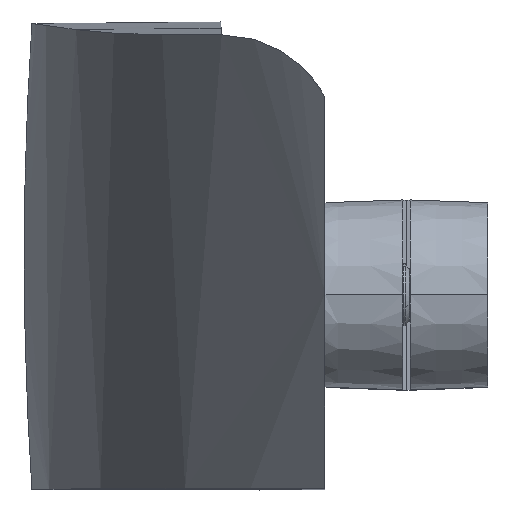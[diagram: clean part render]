
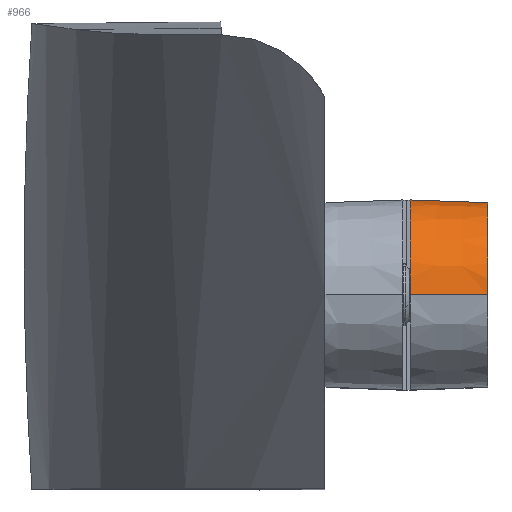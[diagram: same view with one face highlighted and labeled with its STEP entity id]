
A CAD part, top view. The second image highlights one B-rep face of the part: STEP entity #966.
In plain terms, the highlighted conical face has half-angle 2 degrees and reference radius 12.25 mm.
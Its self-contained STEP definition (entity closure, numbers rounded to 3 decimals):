
#49 = AXIS2_PLACEMENT_3D ( 'NONE', #18121, #2362, #4430 ) ;
#966 = ADVANCED_FACE ( 'NONE', ( #5024 ), #22401, .T. ) ;
#1848 = CARTESIAN_POINT ( 'NONE',  ( 11., 0., 27.5 ) ) ;
#2141 = CARTESIAN_POINT ( 'NONE',  ( 21., 11.901, 27.5 ) ) ;
#2252 = CIRCLE ( 'NONE', #12894, 12.25 ) ;
#2362 = DIRECTION ( 'NONE',  ( 1., 0., 0. ) ) ;
#2521 = EDGE_LOOP ( 'NONE', ( #10639, #13095, #11931, #19313 ) ) ;
#2792 = EDGE_CURVE ( 'NONE', #5779, #7209, #2252, .T. ) ;
#2928 = CARTESIAN_POINT ( 'NONE',  ( 11., 12.25, 27.5 ) ) ;
#3122 = DIRECTION ( 'NONE',  ( -1., 0., 0. ) ) ;
#3282 = EDGE_CURVE ( 'NONE', #5779, #16072, #8243, .T. ) ;
#4430 = DIRECTION ( 'NONE',  ( 0., 0., 1. ) ) ;
#5024 = FACE_OUTER_BOUND ( 'NONE', #2521, .T. ) ;
#5257 = DIRECTION ( 'NONE',  ( -1., 0., 0. ) ) ;
#5779 = VERTEX_POINT ( 'NONE', #15570 ) ;
#6507 = DIRECTION ( 'NONE',  ( 0.999, 0., -0.035 ) ) ;
#7209 = VERTEX_POINT ( 'NONE', #12499 ) ;
#8243 = LINE ( 'NONE', #22264, #14402 ) ;
#10545 = CARTESIAN_POINT ( 'NONE',  ( 11., 0., 27.5 ) ) ;
#10639 = ORIENTED_EDGE ( 'NONE', *, *, #2792, .F. ) ;
#11931 = ORIENTED_EDGE ( 'NONE', *, *, #22104, .F. ) ;
#11974 = DIRECTION ( 'NONE',  ( 0., 0., 1. ) ) ;
#12464 = AXIS2_PLACEMENT_3D ( 'NONE', #10545, #5257, #15948 ) ;
#12499 = CARTESIAN_POINT ( 'NONE',  ( 11., 12.25, 27.5 ) ) ;
#12894 = AXIS2_PLACEMENT_3D ( 'NONE', #1848, #3122, #11974 ) ;
#13038 = DIRECTION ( 'NONE',  ( 0.999, -0.035, 0. ) ) ;
#13095 = ORIENTED_EDGE ( 'NONE', *, *, #3282, .T. ) ;
#13236 = CIRCLE ( 'NONE', #49, 11.901 ) ;
#14402 = VECTOR ( 'NONE', #6507, 1000. ) ;
#15570 = CARTESIAN_POINT ( 'NONE',  ( 11., 0., 39.75 ) ) ;
#15948 = DIRECTION ( 'NONE',  ( 0., 0., -1. ) ) ;
#16072 = VERTEX_POINT ( 'NONE', #20440 ) ;
#16354 = EDGE_CURVE ( 'NONE', #7209, #22055, #22143, .T. ) ;
#16414 = VECTOR ( 'NONE', #13038, 1000. ) ;
#18121 = CARTESIAN_POINT ( 'NONE',  ( 21., 0., 27.5 ) ) ;
#19313 = ORIENTED_EDGE ( 'NONE', *, *, #16354, .F. ) ;
#20440 = CARTESIAN_POINT ( 'NONE',  ( 21., 0., 39.401 ) ) ;
#22055 = VERTEX_POINT ( 'NONE', #2141 ) ;
#22104 = EDGE_CURVE ( 'NONE', #22055, #16072, #13236, .T. ) ;
#22143 = LINE ( 'NONE', #2928, #16414 ) ;
#22264 = CARTESIAN_POINT ( 'NONE',  ( 11., 0., 39.75 ) ) ;
#22401 = CONICAL_SURFACE ( 'NONE', #12464, 12.25, 0.035 ) ;
